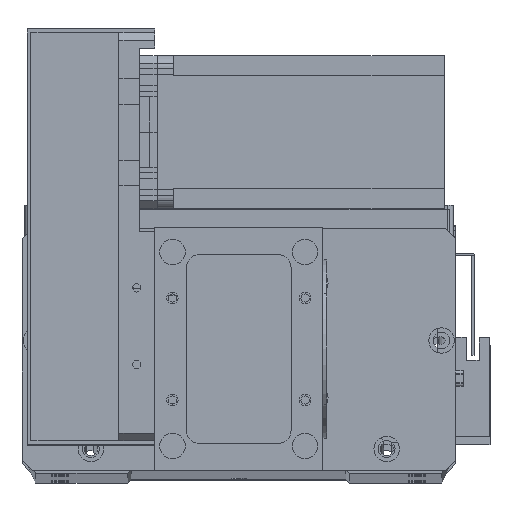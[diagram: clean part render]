
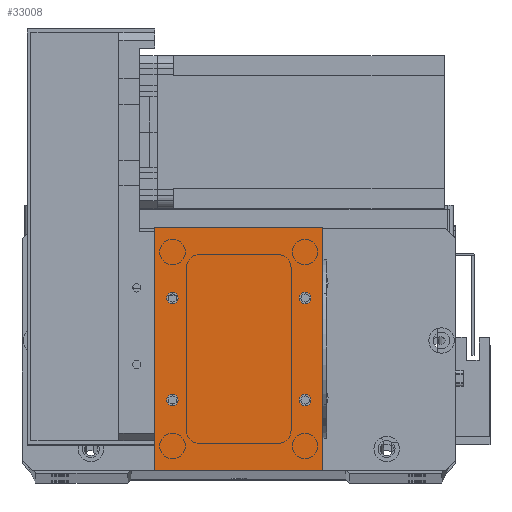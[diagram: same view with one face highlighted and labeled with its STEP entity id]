
A CAD part, top view. The second image highlights one B-rep face of the part: STEP entity #33008.
In plain terms, the highlighted planar face has unit normal (0, 0, 1).
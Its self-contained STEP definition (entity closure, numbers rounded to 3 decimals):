
#161 = DIRECTION ( 'NONE',  ( -1., 0., 0. ) ) ;
#193 = EDGE_CURVE ( 'NONE', #10032, #20493, #20019, .T. ) ;
#905 = AXIS2_PLACEMENT_3D ( 'NONE', #19796, #4225, #22425 ) ;
#1670 = CARTESIAN_POINT ( 'NONE',  ( 4.75, 67.5, 2. ) ) ;
#1901 = CIRCLE ( 'NONE', #28148, 2.25 ) ;
#2128 = CARTESIAN_POINT ( 'NONE',  ( 9.25, 67.5, 2. ) ) ;
#2200 = DIRECTION ( 'NONE',  ( 0., 0., 1. ) ) ;
#2916 = CARTESIAN_POINT ( 'NONE',  ( 7., 67.5, 2. ) ) ;
#3035 = CARTESIAN_POINT ( 'NONE',  ( 56.75, 27.5, 2. ) ) ;
#3202 = CIRCLE ( 'NONE', #17045, 2.25 ) ;
#3209 = AXIS2_PLACEMENT_3D ( 'NONE', #14450, #32576, #17074 ) ;
#4028 = PLANE ( 'NONE',  #3209 ) ;
#4140 = VERTEX_POINT ( 'NONE', #3035 ) ;
#4225 = DIRECTION ( 'NONE',  ( 0., 0., 1. ) ) ;
#4411 = EDGE_LOOP ( 'NONE', ( #26749, #12338 ) ) ;
#4622 = DIRECTION ( 'NONE',  ( 0., 0., 1. ) ) ;
#5182 = ORIENTED_EDGE ( 'NONE', *, *, #5329, .F. ) ;
#5329 = EDGE_CURVE ( 'NONE', #27023, #16960, #26613, .T. ) ;
#5391 = LINE ( 'NONE', #18317, #25314 ) ;
#5493 = DIRECTION ( 'NONE',  ( 1., 0., 0. ) ) ;
#5724 = AXIS2_PLACEMENT_3D ( 'NONE', #9257, #10939, #7431 ) ;
#6957 = EDGE_LOOP ( 'NONE', ( #12719, #10019 ) ) ;
#7356 = LINE ( 'NONE', #8707, #22010 ) ;
#7431 = DIRECTION ( 'NONE',  ( 1., 0., 0. ) ) ;
#7994 = VERTEX_POINT ( 'NONE', #29456 ) ;
#8707 = CARTESIAN_POINT ( 'NONE',  ( 0., 0., 2. ) ) ;
#8730 = EDGE_LOOP ( 'NONE', ( #21733, #33562, #23973, #20531 ) ) ;
#8888 = CARTESIAN_POINT ( 'NONE',  ( 59., 27.5, 2. ) ) ;
#9044 = EDGE_LOOP ( 'NONE', ( #23653, #19433 ) ) ;
#9196 = DIRECTION ( 'NONE',  ( 0., 1., 0. ) ) ;
#9257 = CARTESIAN_POINT ( 'NONE',  ( 7., 27.5, 2. ) ) ;
#9727 = VERTEX_POINT ( 'NONE', #26542 ) ;
#9791 = CARTESIAN_POINT ( 'NONE',  ( 4.75, 27.5, 2. ) ) ;
#9926 = VERTEX_POINT ( 'NONE', #14615 ) ;
#9946 = CARTESIAN_POINT ( 'NONE',  ( 59., 27.5, 2. ) ) ;
#10019 = ORIENTED_EDGE ( 'NONE', *, *, #18691, .F. ) ;
#10032 = VERTEX_POINT ( 'NONE', #9791 ) ;
#10125 = CARTESIAN_POINT ( 'NONE',  ( 0., 0., 2. ) ) ;
#10939 = DIRECTION ( 'NONE',  ( 0., 0., 1. ) ) ;
#11318 = DIRECTION ( 'NONE',  ( 1., 0., 0. ) ) ;
#11476 = DIRECTION ( 'NONE',  ( 1., 0., 0. ) ) ;
#11685 = FACE_BOUND ( 'NONE', #4411, .T. ) ;
#12338 = ORIENTED_EDGE ( 'NONE', *, *, #20684, .F. ) ;
#12444 = CIRCLE ( 'NONE', #16832, 2.25 ) ;
#12512 = FACE_BOUND ( 'NONE', #27217, .T. ) ;
#12579 = DIRECTION ( 'NONE',  ( 1., 0., 0. ) ) ;
#12719 = ORIENTED_EDGE ( 'NONE', *, *, #19575, .F. ) ;
#13349 = EDGE_CURVE ( 'NONE', #24681, #24901, #5391, .T. ) ;
#13551 = VERTEX_POINT ( 'NONE', #26895 ) ;
#14450 = CARTESIAN_POINT ( 'NONE',  ( 0., 0., 2. ) ) ;
#14517 = EDGE_CURVE ( 'NONE', #24901, #13551, #30517, .T. ) ;
#14615 = CARTESIAN_POINT ( 'NONE',  ( 66., 0., 2. ) ) ;
#15045 = CARTESIAN_POINT ( 'NONE',  ( 59., 67.5, 2. ) ) ;
#15752 = EDGE_CURVE ( 'NONE', #20493, #10032, #27587, .T. ) ;
#16832 = AXIS2_PLACEMENT_3D ( 'NONE', #9946, #28129, #12579 ) ;
#16960 = VERTEX_POINT ( 'NONE', #1670 ) ;
#17045 = AXIS2_PLACEMENT_3D ( 'NONE', #8888, #27061, #11476 ) ;
#17074 = DIRECTION ( 'NONE',  ( -1., 0., 0. ) ) ;
#17634 = CARTESIAN_POINT ( 'NONE',  ( 56.75, 67.5, 2. ) ) ;
#17637 = DIRECTION ( 'NONE',  ( 1., 0., 0. ) ) ;
#17777 = CARTESIAN_POINT ( 'NONE',  ( 59., 67.5, 2. ) ) ;
#17826 = FACE_OUTER_BOUND ( 'NONE', #8730, .T. ) ;
#18317 = CARTESIAN_POINT ( 'NONE',  ( 0., 95., 2. ) ) ;
#18691 = EDGE_CURVE ( 'NONE', #4140, #7994, #3202, .T. ) ;
#18835 = CARTESIAN_POINT ( 'NONE',  ( 66., 95., 2. ) ) ;
#18904 = CARTESIAN_POINT ( 'NONE',  ( 9.25, 27.5, 2. ) ) ;
#18913 = VERTEX_POINT ( 'NONE', #17634 ) ;
#19433 = ORIENTED_EDGE ( 'NONE', *, *, #193, .F. ) ;
#19575 = EDGE_CURVE ( 'NONE', #7994, #4140, #12444, .T. ) ;
#19702 = CARTESIAN_POINT ( 'NONE',  ( 0., 95., 2. ) ) ;
#19766 = AXIS2_PLACEMENT_3D ( 'NONE', #2916, #21097, #5493 ) ;
#19796 = CARTESIAN_POINT ( 'NONE',  ( 7., 27.5, 2. ) ) ;
#20019 = CIRCLE ( 'NONE', #5724, 2.25 ) ;
#20201 = CARTESIAN_POINT ( 'NONE',  ( 7., 67.5, 2. ) ) ;
#20390 = DIRECTION ( 'NONE',  ( 1., 0., 0. ) ) ;
#20493 = VERTEX_POINT ( 'NONE', #18904 ) ;
#20531 = ORIENTED_EDGE ( 'NONE', *, *, #13349, .T. ) ;
#20684 = EDGE_CURVE ( 'NONE', #18913, #9727, #1901, .T. ) ;
#21097 = DIRECTION ( 'NONE',  ( 0., 0., 1. ) ) ;
#21733 = ORIENTED_EDGE ( 'NONE', *, *, #14517, .T. ) ;
#22010 = VECTOR ( 'NONE', #11318, 1000. ) ;
#22425 = DIRECTION ( 'NONE',  ( 1., 0., 0. ) ) ;
#22759 = AXIS2_PLACEMENT_3D ( 'NONE', #20201, #4622, #22818 ) ;
#22818 = DIRECTION ( 'NONE',  ( 1., 0., 0. ) ) ;
#22909 = EDGE_CURVE ( 'NONE', #16960, #27023, #28790, .T. ) ;
#23653 = ORIENTED_EDGE ( 'NONE', *, *, #15752, .F. ) ;
#23973 = ORIENTED_EDGE ( 'NONE', *, *, #33001, .T. ) ;
#24681 = VERTEX_POINT ( 'NONE', #18835 ) ;
#24734 = FACE_BOUND ( 'NONE', #9044, .T. ) ;
#24805 = CARTESIAN_POINT ( 'NONE',  ( 66., 0., 2. ) ) ;
#24901 = VERTEX_POINT ( 'NONE', #19702 ) ;
#25314 = VECTOR ( 'NONE', #161, 1000. ) ;
#25694 = DIRECTION ( 'NONE',  ( 0., -1., 0. ) ) ;
#26542 = CARTESIAN_POINT ( 'NONE',  ( 61.25, 67.5, 2. ) ) ;
#26613 = CIRCLE ( 'NONE', #19766, 2.25 ) ;
#26749 = ORIENTED_EDGE ( 'NONE', *, *, #27560, .F. ) ;
#26895 = CARTESIAN_POINT ( 'NONE',  ( 0., 0., 2. ) ) ;
#27023 = VERTEX_POINT ( 'NONE', #2128 ) ;
#27061 = DIRECTION ( 'NONE',  ( 0., 0., 1. ) ) ;
#27217 = EDGE_LOOP ( 'NONE', ( #5182, #29140 ) ) ;
#27221 = AXIS2_PLACEMENT_3D ( 'NONE', #17777, #2200, #20390 ) ;
#27560 = EDGE_CURVE ( 'NONE', #9727, #18913, #30171, .T. ) ;
#27587 = CIRCLE ( 'NONE', #905, 2.25 ) ;
#28129 = DIRECTION ( 'NONE',  ( 0., 0., 1. ) ) ;
#28148 = AXIS2_PLACEMENT_3D ( 'NONE', #15045, #33141, #17637 ) ;
#28790 = CIRCLE ( 'NONE', #22759, 2.25 ) ;
#29140 = ORIENTED_EDGE ( 'NONE', *, *, #22909, .F. ) ;
#29456 = CARTESIAN_POINT ( 'NONE',  ( 61.25, 27.5, 2. ) ) ;
#29714 = VECTOR ( 'NONE', #25694, 1000. ) ;
#30171 = CIRCLE ( 'NONE', #27221, 2.25 ) ;
#30517 = LINE ( 'NONE', #10125, #29714 ) ;
#31609 = FACE_BOUND ( 'NONE', #6957, .T. ) ;
#32417 = LINE ( 'NONE', #24805, #33214 ) ;
#32576 = DIRECTION ( 'NONE',  ( 0., 0., -1. ) ) ;
#33001 = EDGE_CURVE ( 'NONE', #9926, #24681, #32417, .T. ) ;
#33008 = ADVANCED_FACE ( 'NONE', ( #12512, #11685, #31609, #24734, #17826 ), #4028, .F. ) ;
#33141 = DIRECTION ( 'NONE',  ( 0., 0., 1. ) ) ;
#33214 = VECTOR ( 'NONE', #9196, 1000. ) ;
#33534 = EDGE_CURVE ( 'NONE', #13551, #9926, #7356, .T. ) ;
#33562 = ORIENTED_EDGE ( 'NONE', *, *, #33534, .T. ) ;
